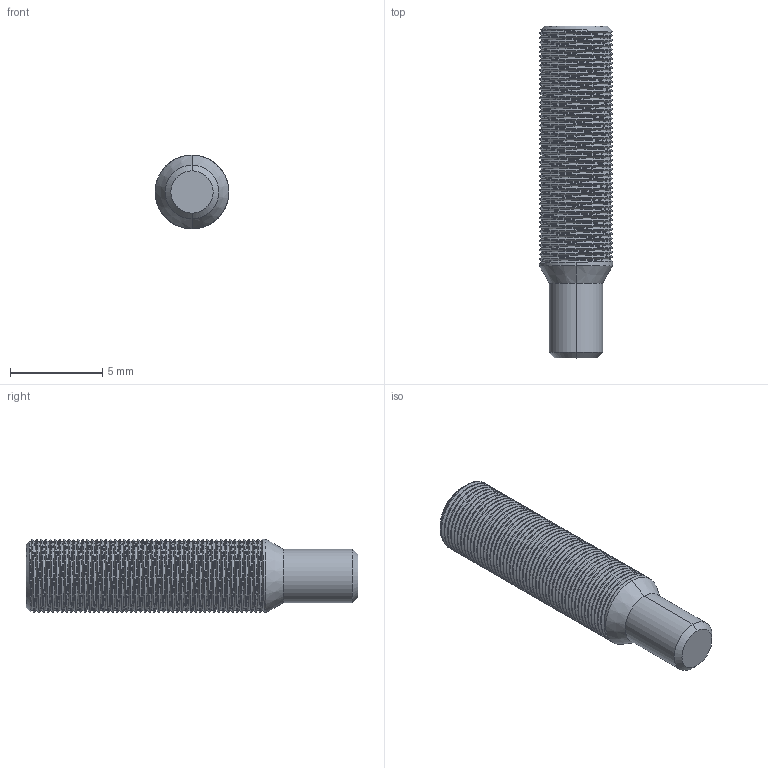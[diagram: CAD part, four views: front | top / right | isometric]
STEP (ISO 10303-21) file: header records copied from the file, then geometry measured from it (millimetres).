
FILE_DESCRIPTION (( 'STEP AP214' ), '1' );
FILE_NAME ('6.STEP', '2024-10-22T06:54:37', ( '' ), ( '' ), 'SwSTEP 2.0', 'SolidWorks 2024', '' );
FILE_SCHEMA (( 'AUTOMOTIVE_DESIGN' ));
Length unit declared in the file: millimetre
Products named in the file (1): 6
Bounding box: 4 x 18 x 4 mm (x, y, z)
Volume: 180.3 mm3; surface area: 332.2 mm2
Topology: 1 solids, 1 shells, 131 faces, 364 edges, 236 vertices
Faces by surface type: cylinder 105, cone 12, plane 11, bspline 3
Entity records: 10052 total; most frequent: CARTESIAN_POINT 7334, ORIENTED_EDGE 728, DIRECTION 415, EDGE_CURVE 364, VERTEX_POINT 236, AXIS2_PLACEMENT_3D 146, EDGE_LOOP 132, FACE_OUTER_BOUND 131
